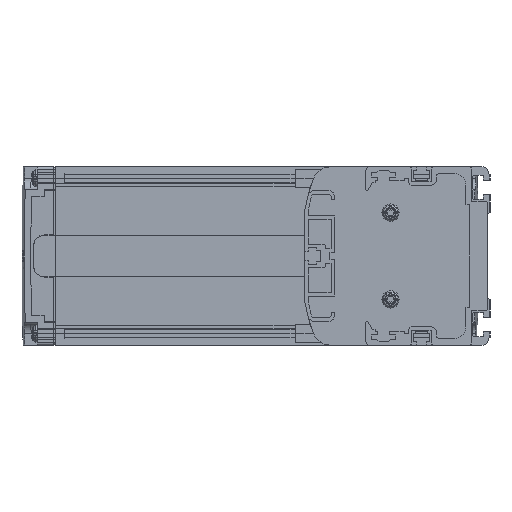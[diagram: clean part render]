
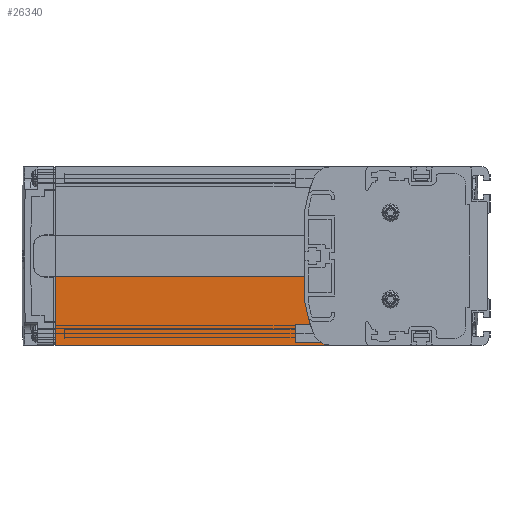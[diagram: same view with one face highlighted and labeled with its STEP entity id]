
A CAD part, left-side view. The second image highlights one B-rep face of the part: STEP entity #26340.
In plain terms, the highlighted planar face has unit normal (-1, 0, 0).
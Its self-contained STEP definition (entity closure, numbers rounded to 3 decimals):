
#1620=DIRECTION('',(0.,-1.,0.));
#1621=VECTOR('',#1620,120.245);
#1622=CARTESIAN_POINT('',(3.,190.,-39.));
#1623=LINE('',#1622,#1621);
#1624=DIRECTION('',(0.,0.,-1.));
#1625=VECTOR('',#1624,29.9);
#1626=CARTESIAN_POINT('',(3.,190.,-9.1));
#1627=LINE('',#1626,#1625);
#4590=DIRECTION('',(0.,0.,1.));
#4591=VECTOR('',#4590,10.723);
#4592=CARTESIAN_POINT('',(3.,81.,-19.823));
#4593=LINE('',#4592,#4591);
#4638=CARTESIAN_POINT('',(3.,79.,-19.823));
#4639=DIRECTION('',(-1.,0.,0.));
#4640=DIRECTION('',(0.,1.,0.));
#4641=AXIS2_PLACEMENT_3D('',#4638,#4639,#4640);
#4647=CARTESIAN_POINT('',(3.,2.235,-6.));
#4648=DIRECTION('',(1.,0.,0.));
#4649=DIRECTION('',(0.,0.938,-0.347));
#4650=AXIS2_PLACEMENT_3D('',#4647,#4648,#4649);
#7333=CARTESIAN_POINT('',(3.,69.755,-31.));
#7334=DIRECTION('',(1.,0.,0.));
#7335=DIRECTION('',(0.,0.,-1.));
#7336=AXIS2_PLACEMENT_3D('',#7333,#7334,#7335);
#14534=DIRECTION('',(0.,1.,0.));
#14535=VECTOR('',#14534,109.);
#14536=CARTESIAN_POINT('',(3.,81.,-9.1));
#14537=LINE('',#14536,#14535);
#19437=CARTESIAN_POINT('',(3.,190.,-9.1));
#19438=VERTEX_POINT('',#19437);
#19439=CARTESIAN_POINT('',(3.,190.,-39.));
#19440=VERTEX_POINT('',#19439);
#23787=CARTESIAN_POINT('',(3.,81.,-9.1));
#23788=VERTEX_POINT('',#23787);
#23799=CARTESIAN_POINT('',(3.,81.,-19.823));
#23800=CARTESIAN_POINT('',(3.,80.968,-20.177));
#23801=VERTEX_POINT('',#23799);
#23802=VERTEX_POINT('',#23800);
#23803=CARTESIAN_POINT('',(3.,77.257,-33.778));
#23804=VERTEX_POINT('',#23803);
#23805=CARTESIAN_POINT('',(3.,69.755,-39.));
#23806=VERTEX_POINT('',#23805);
#26319=CARTESIAN_POINT('',(3.,105.,-24.05));
#26320=DIRECTION('',(1.,0.,0.));
#26321=DIRECTION('',(0.,0.,1.));
#26322=AXIS2_PLACEMENT_3D('',#26319,#26320,#26321);
#26323=PLANE('',#26322);
#26325=ORIENTED_EDGE('',*,*,#26324,.T.);
#26327=ORIENTED_EDGE('',*,*,#26326,.F.);
#26329=ORIENTED_EDGE('',*,*,#26328,.F.);
#26331=ORIENTED_EDGE('',*,*,#26330,.F.);
#26333=ORIENTED_EDGE('',*,*,#26332,.F.);
#26335=ORIENTED_EDGE('',*,*,#26334,.F.);
#26337=ORIENTED_EDGE('',*,*,#26336,.F.);
#26338=EDGE_LOOP('',(#26325,#26327,#26329,#26331,#26333,#26335,#26337));
#26339=FACE_OUTER_BOUND('',#26338,.F.);
#26340=ADVANCED_FACE('',(#26339),#26323,.F.);
#4642=CIRCLE('',#4641,2.);
#4651=CIRCLE('',#4650,80.);
#7337=CIRCLE('',#7336,8.);
#26324=EDGE_CURVE('',#23801,#23802,#4642,.T.);
#26326=EDGE_CURVE('',#23804,#23802,#4651,.T.);
#26328=EDGE_CURVE('',#23806,#23804,#7337,.T.);
#26330=EDGE_CURVE('',#19440,#23806,#1623,.T.);
#26332=EDGE_CURVE('',#19438,#19440,#1627,.T.);
#26334=EDGE_CURVE('',#23788,#19438,#14537,.T.);
#26336=EDGE_CURVE('',#23801,#23788,#4593,.T.);
